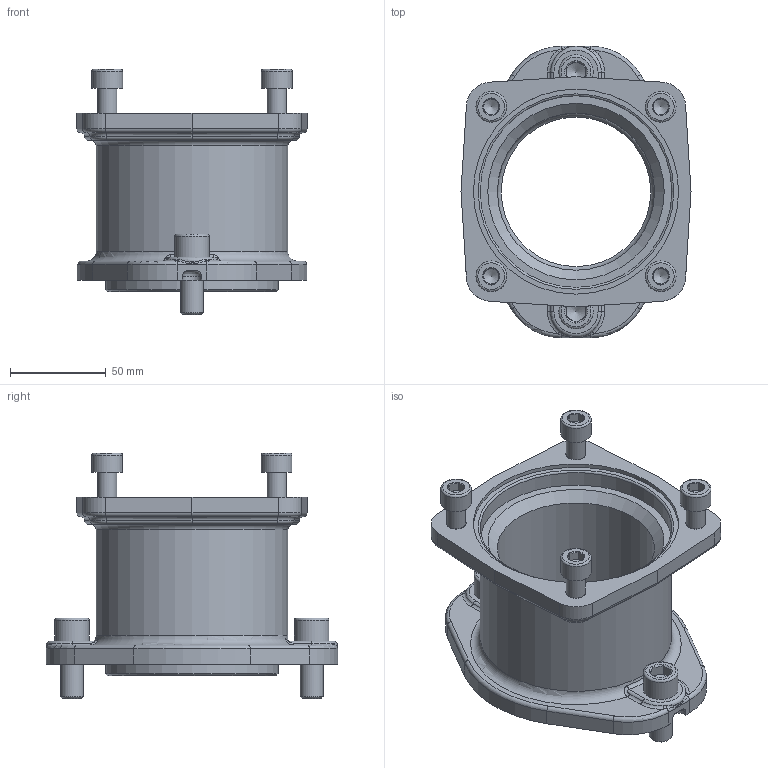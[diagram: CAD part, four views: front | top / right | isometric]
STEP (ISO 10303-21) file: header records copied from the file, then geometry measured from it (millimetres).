
FILE_DESCRIPTION(/* description */ (''),/* implementation_level */ '2;1');
FILE_NAME(/* name */ '3000020100_Semplifica_1.stp',/* time_stamp */ '2023-03-23T11:21:59+01:00',/* author */ ('marcop'),/* organization */ (''),/* preprocessor_version */ 'ST-DEVELOPER v19.2',/* originating_system */ 'Autodesk Inventor 2023',/* authorisation */ '');
FILE_SCHEMA (('AUTOMOTIVE_DESIGN { 1 0 10303 214 3 1 1 }'));
Length unit declared in the file: inch
Products named in the file (1): 3000020100_Semplifica_1
Bounding box: 120 x 152 x 128 mm (x, y, z)
Volume: 353028.6 mm3; surface area: 93036 mm2
Topology: 1 solids, 1 shells, 297 faces, 716 edges, 443 vertices
Faces by surface type: plane 118, cylinder 79, cone 47, torus 36, bspline 17
Full cylindrical faces by diameter (mm): 8.376 x4, 10 x4, 12 x2, 13 x2, 16 x4, 18 x2, 78 x1, 82 x1, 90 x1, 99 x1, 100 x2, 106 x1, 107 x1
Entity records: 9365 total; most frequent: CARTESIAN_POINT 2188, DIRECTION 1468, ORIENTED_EDGE 1416, EDGE_CURVE 708, AXIS2_PLACEMENT_3D 581, VERTEX_POINT 443, EDGE_LOOP 329, LINE 306
